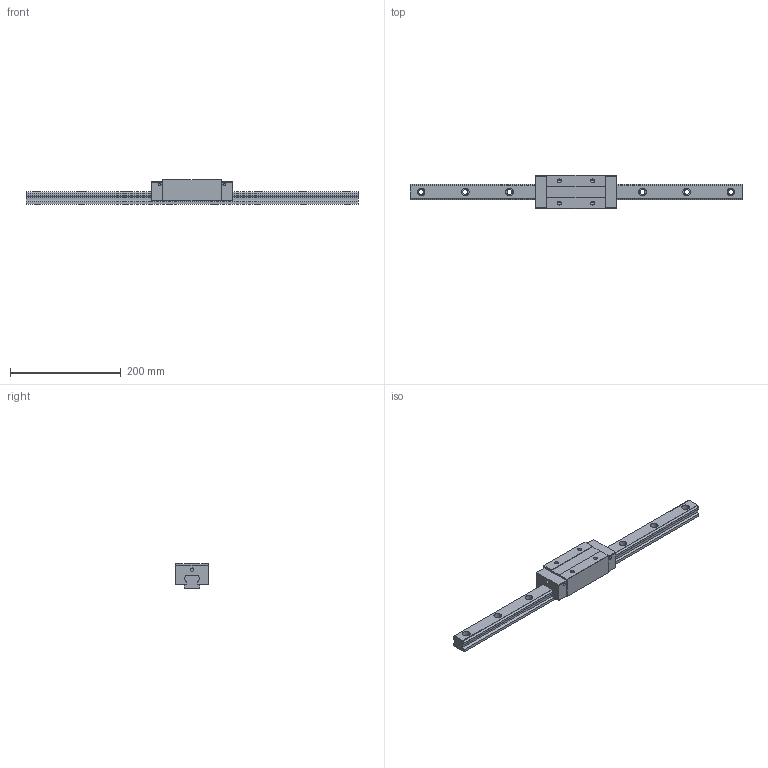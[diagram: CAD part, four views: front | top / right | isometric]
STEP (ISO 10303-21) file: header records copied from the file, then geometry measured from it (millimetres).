
FILE_DESCRIPTION (( 'STEP AP203' ), '1' );
FILE_NAME ('TRH30VE-SZ.STEP', '2024-07-10T02:35:42', ( '' ), ( '' ), 'SwSTEP 2.0', 'SolidWorks 2022', '' );
FILE_SCHEMA (( 'CONFIG_CONTROL_DESIGN' ));
Length unit declared in the file: millimetre
Products named in the file (1): TRH30VE-SZ
Bounding box: 600 x 60 x 45 mm (x, y, z)
Volume: 582828.8 mm3; surface area: 108813.5 mm2
Topology: 2 solids, 2 shells, 186 faces, 488 edges, 316 vertices
Faces by surface type: cylinder 88, plane 82, cone 16
Entity records: 5819 total; most frequent: DIRECTION 1038, CARTESIAN_POINT 983, ORIENTED_EDGE 960, EDGE_CURVE 480, AXIS2_PLACEMENT_3D 371, VERTEX_POINT 316, VECTOR 296, LINE 296
